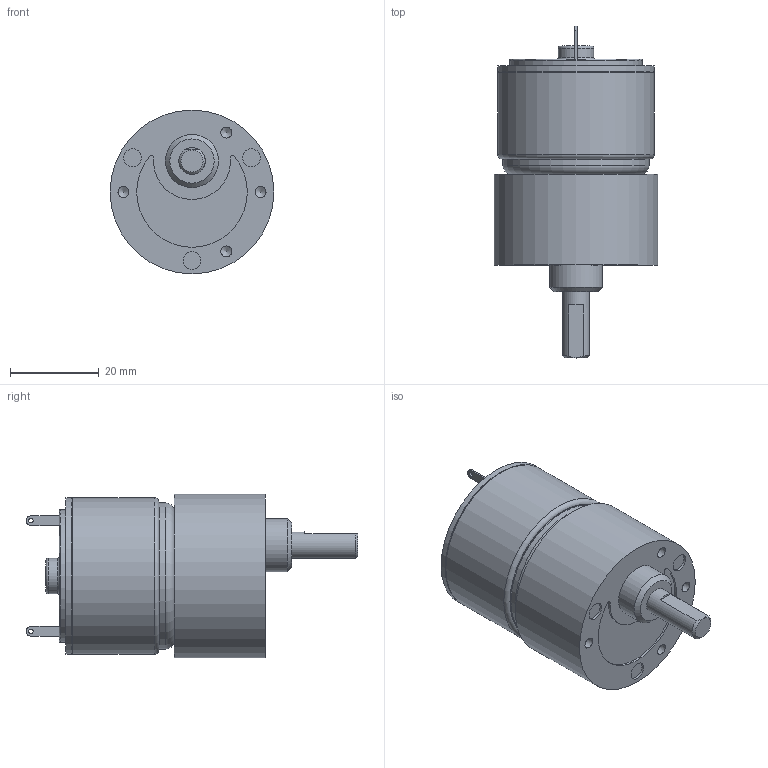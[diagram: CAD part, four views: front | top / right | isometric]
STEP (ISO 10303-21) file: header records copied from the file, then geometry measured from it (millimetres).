
FILE_DESCRIPTION((''),'2;1');
FILE_NAME('C:\Documents and Settings\SSEGAWA\デスクトップ\TP-3526G-KG-2.STP','2013-07-09T17:22:35',('SSEGAWA'),(''),'Autodesk Inventor 2010','Autodesk Inventor 2010','');
FILE_SCHEMA(('CONFIG_CONTROL_DESIGN'));
Length unit declared in the file: millimetre
Products named in the file (3): tp_3526g_kg_2; kg_2; tp_3526g
Assembly tree (2 placements, depth 2):
  tp_3526g_kg_2
    kg_2
    tp_3526g
Bounding box: 37 x 75 x 37 mm (x, y, z)
Volume: 47838.5 mm3; surface area: 10205.7 mm2
Topology: 2 solids, 2 shells, 77 faces, 158 edges, 103 vertices
Faces by surface type: plane 30, cylinder 23, bspline 17, torus 4, cone 3
Full cylindrical faces by diameter (mm): 2 x1, 2.4 x1, 4 x3, 5 x2, 6 x1, 8 x1, 10 x1, 12 x1, 30 x1, 33 x1, 35 x1, 35.4 x2, 37 x1
Entity records: 2095 total; most frequent: CARTESIAN_POINT 645, DIRECTION 303, ORIENTED_EDGE 204, EDGE_LOOP 139, AXIS2_PLACEMENT_3D 138, EDGE_CURVE 102, VERTEX_POINT 87, FACE_OUTER_BOUND 77
